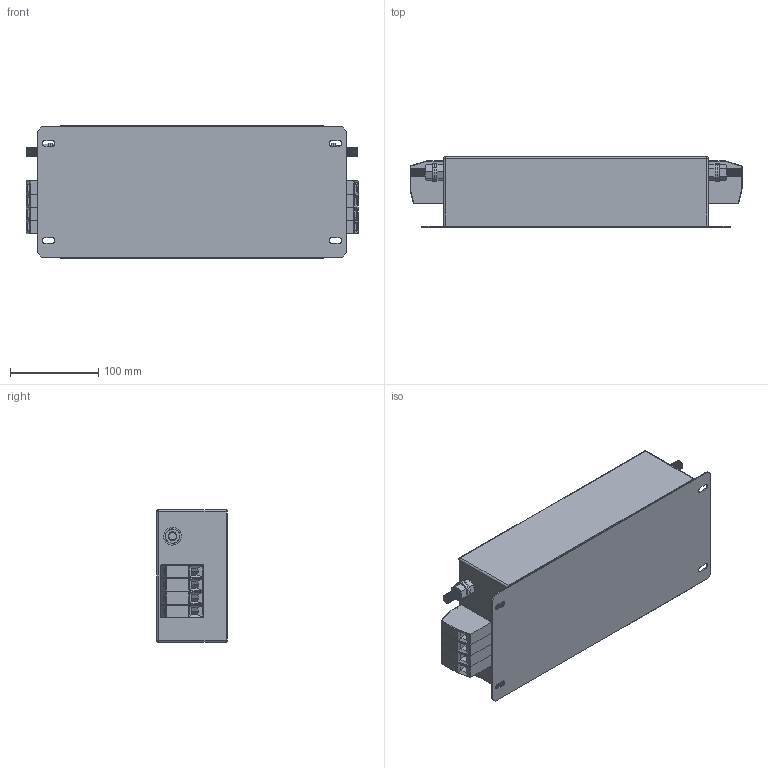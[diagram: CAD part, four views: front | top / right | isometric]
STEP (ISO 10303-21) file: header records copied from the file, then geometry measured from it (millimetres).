
FILE_DESCRIPTION (( 'STEP AP203' ), '1' );
FILE_NAME ('NF-4-80-PPR.STEP', '2022-05-30T13:25:59', ( '' ), ( '' ), 'SwSTEP 2.0', 'SolidWorks 2017', '' );
FILE_SCHEMA (( 'CONFIG_CONTROL_DESIGN' ));
Length unit declared in the file: millimetre
Products named in the file (8): NF-4-80-PPR; HDFK25x3; M10x30 Earth post; hex nut style 1_am_B18.2.4.1M - Hex nut, Style 1,  M10 x 1.5, with 16mm WAF --D-N; hex screw_am_B18.6.7M - M10 x 1.5 x 30 Indented HHMS --30S; flat washer narrow_am_B18.22M - Plain washer, 10 mm, narrow; HDFK-25; NF, Nf-H b
Assembly tree (14 placements, depth 3):
  NF-4-80-PPR
    NF, Nf-H b
    M10x30 Earth post  x2
      flat washer narrow_am_B18.22M - Plain washer, 10 mm, narrow
      hex nut style 1_am_B18.2.4.1M - Hex nut, Style 1,  M10 x 1.5, with 16mm WAF --D-N
      hex screw_am_B18.6.7M - M10 x 1.5 x 30 Indented HHMS --30S
    HDFK25x3  x2
      HDFK-25
    HDFK-25  x2
Bounding box: 376.01 x 80 x 150 mm (x, y, z)
Volume: 3783044 mm3; surface area: 273100.7 mm2
Topology: 17 solids, 17 shells, 992 faces, 2358 edges, 1448 vertices
Faces by surface type: plane 590, cone 216, cylinder 182, sphere 4
Entity records: 10077 total; most frequent: CARTESIAN_POINT 1715, DIRECTION 1649, ORIENTED_EDGE 1474, EDGE_CURVE 737, AXIS2_PLACEMENT_3D 630, VERTEX_POINT 456, LINE 389, VECTOR 389
